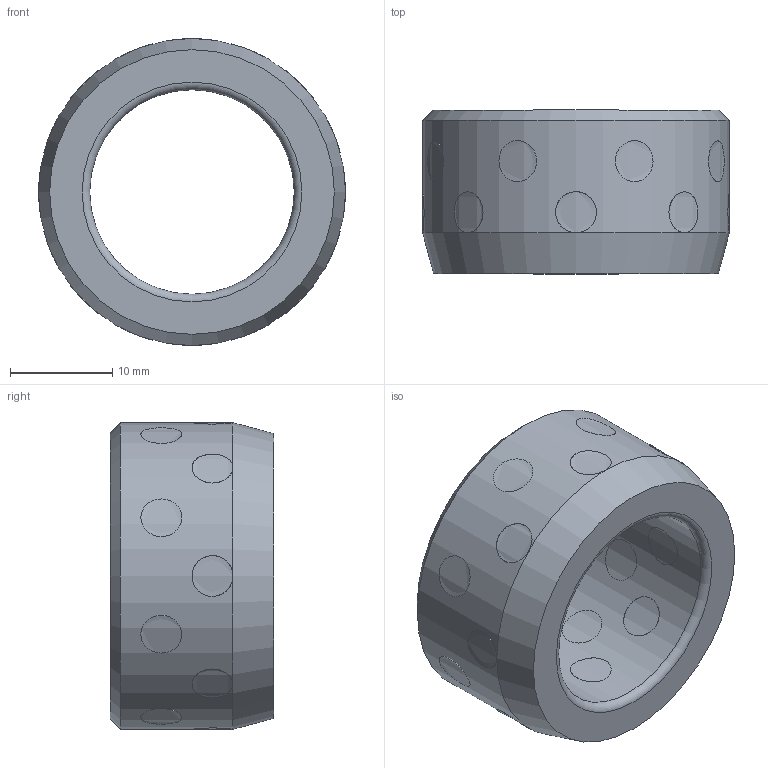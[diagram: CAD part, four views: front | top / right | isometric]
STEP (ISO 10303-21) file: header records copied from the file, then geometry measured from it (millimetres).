
FILE_DESCRIPTION( ( 'STEP AP203' ), '1' );
FILE_NAME( 'D:/Cuma/18 03 2010/D30.04/D30.04_201630.step', '2003-01-24T23:30:07', ( ' ' ), ( ' ' ), 'XStep 1.0', ' ', ' ' );
FILE_SCHEMA( ( 'CONFIG_CONTROL_DESIGN' ) );
Length unit declared in the file: metre
Products named in the file (25): 1; 2; 3; 4; 5; 6; 7; 8; 9; 10; 11; 12; 13; 14; 15; 16; 17; 18; 19; 20; 21; 22; 23; 24; 25
Bounding box: 30 x 16 x 30 mm (x, y, z)
Volume: 7537.5 mm3; surface area: 5227.7 mm2
Topology: 25 solids, 25 shells, 80 faces, 86 edges, 56 vertices
Faces by surface type: cylinder 74, torus 2, plane 2, cone 2
Full cylindrical faces by diameter (mm): 4 x24, 20 x1, 30 x1
Entity records: 4869 total; most frequent: CARTESIAN_POINT 2761, DIRECTION 226, CC_DESIGN_PERSON_AND_ORGANIZATION_ASSIGNMENT 125, AXIS2_PLACEMENT_3D 113, EDGE_LOOP 112, ORIENTED_EDGE 112, FACE_OUTER_BOUND 108, PERSON_AND_ORGANIZATION_ROLE 100
